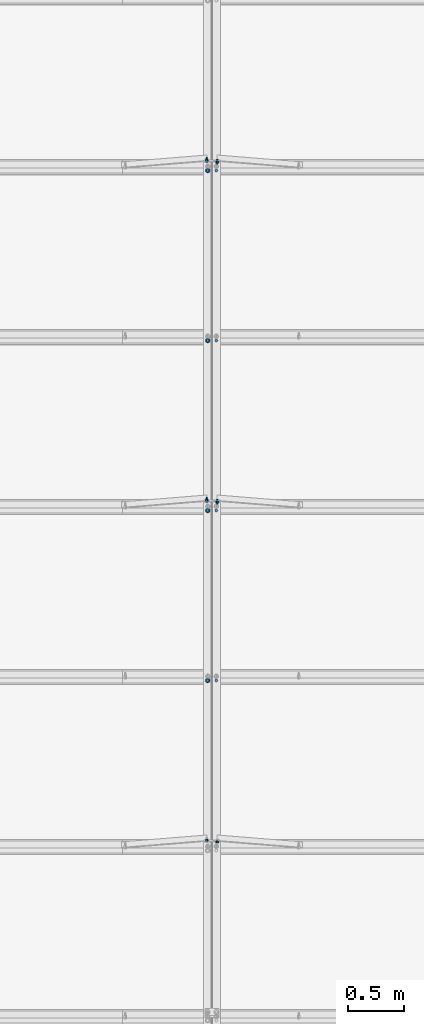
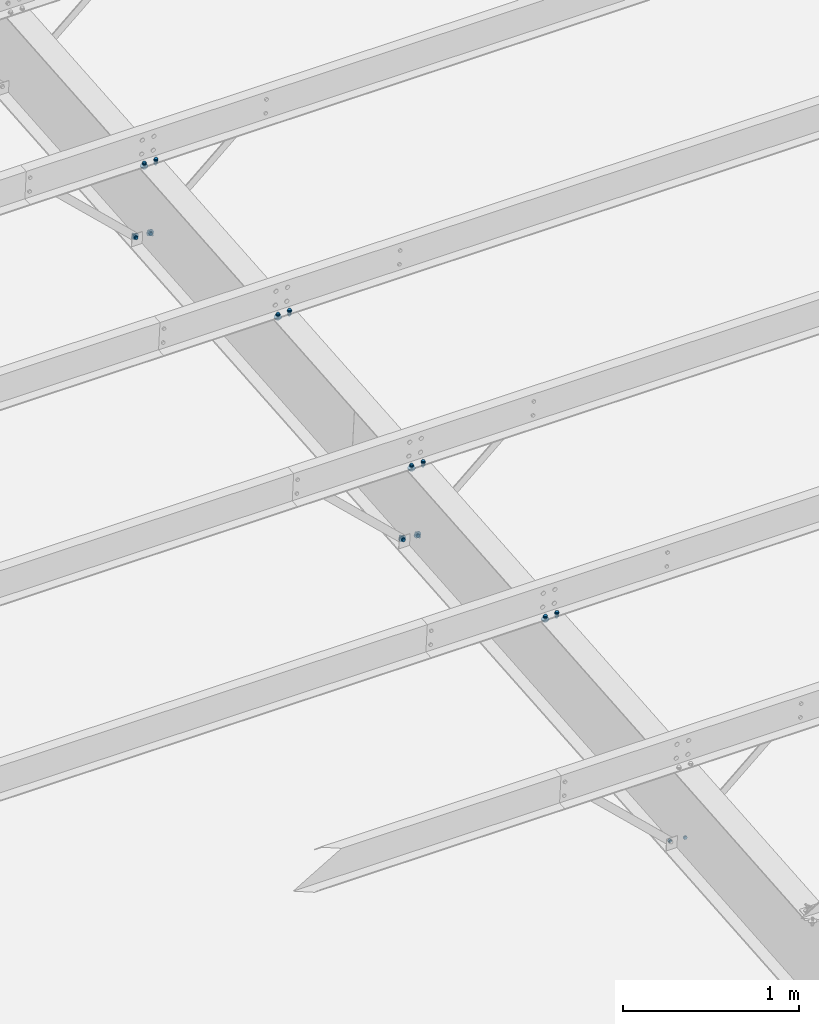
# One storey, part 139 of 185: 18 mechanical fasteners, 9 elements without a shape of their own.
"""IFC2X3 building model written with IfcOpenShell, lengths in millimetres."""

from ifc_helpers import new_model, si_unit, frame, origin_with_axes, origin_2d_with_axis, place, context, subcontext, project, spatial, polyline, circle, outline, extrude, source, transform, mapped, material, type_object, element, aggregate, save


model = new_model("IFC2X3")

# Units and contexts
model_context = context("Model", 3, precision=1e-05, world=origin_with_axes())
body_context = subcontext(model_context, "Body", "Model", "MODEL_VIEW")
ifc_project = project(units=[si_unit("LENGTHUNIT", "METRE", prefix="MILLI"), si_unit("AREAUNIT", "SQUARE_METRE"), si_unit("VOLUMEUNIT", "CUBIC_METRE"), si_unit("MASSUNIT", "GRAM", prefix="KILO"), si_unit("TIMEUNIT", "SECOND"), si_unit("PLANEANGLEUNIT", "RADIAN"), si_unit("SOLIDANGLEUNIT", "STERADIAN"), si_unit("THERMODYNAMICTEMPERATUREUNIT", "DEGREE_CELSIUS"), si_unit("LUMINOUSINTENSITYUNIT", "LUMEN")], contexts=[model_context])

# Site, building, storey
site_placement = place(None, origin_with_axes())
site = spatial("IfcSite", under=ifc_project, at=site_placement, Name="Undefined", CompositionType="ELEMENT")
building_placement = place(site_placement, origin_with_axes())
building = spatial("IfcBuilding", under=site, at=building_placement, Name="Undefined", CompositionType="ELEMENT")
storey_placement = place(building_placement, origin_with_axes())
storey = spatial("IfcBuildingStorey", under=building, at=storey_placement, Name="Undefined", CompositionType="ELEMENT", Elevation=0.0)

# Assembly, mechanical fastener
assembly_1_placement = place(storey_placement, origin_with_axes())
assembly_1 = element("IfcElementAssembly", 1, at=assembly_1_placement, inside=storey, Name="Steel Assembly", AssemblyPlace="NOTDEFINED", PredefinedType="RIGID_FRAME")
ifc_material_1 = material(Name="Undefined")
discrete_accessory_type = type_object("IfcDiscreteAccessoryType", Name="Bolt assembly")
shared_shape_1 = source(origin_with_axes(), body_context, "Body", "SweptSolid", [
    extrude(circle(Radius=7.14374971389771, at=origin_2d_with_axis()), frame((0.0, -1.59000001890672, 0.0), z_axis=(0.0, 1.0, 0.0), x_axis=(1.0, 0.0, 0.0)), (0.0, 0.0, 1.0), 1.7),
    extrude(outline(polyline([(10.9985221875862, 0.0), (5.4992610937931, 9.52499961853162), (-5.4992610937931, 9.52499961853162), (-10.9985221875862, 0.0), (-5.4992610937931, -9.52499961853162), (5.4992610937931, -9.52499961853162), (10.9985221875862, 0.0)])), frame((0.0, -15.0837496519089, 0.0), z_axis=(0.0, 1.0, 0.0), x_axis=(1.0, 0.0, 0.0)), (0.0, 0.0, 1.0), 9.5),
    extrude(circle(Radius=6.34999990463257, at=origin_2d_with_axis()), frame((0.0, -5.5587500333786, 0.0), z_axis=(0.0, 1.0, 0.0), x_axis=(1.0, 0.0, 0.0)), (0.0, 0.0, 1.0), 38.1),
    extrude(circle(Radius=13.4937496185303, at=origin_2d_with_axis()), frame((0.0, -5.5587500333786, 0.0), z_axis=(0.0, 1.0, 0.0), x_axis=(1.0, 0.0, 0.0)), (0.0, 0.0, 1.0), 4.0),
    extrude(circle(Radius=22.2250003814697, at=origin_2d_with_axis()), frame((0.0, 0.0, 0.0), z_axis=(0.0, 1.0, 0.0), x_axis=(1.0, 0.0, 0.0)), (0.0, 0.0, 1.0), 7.9),
    extrude(outline(polyline([(12.8316099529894, 0.0), (6.4158049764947, 11.1125001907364), (-6.4158049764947, 11.1125001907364), (-12.8316099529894, 0.0), (-6.4158049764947, -11.1125001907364), (6.4158049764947, -11.1125001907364), (12.8316099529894, 0.0)])), frame((0.0, 7.93750000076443, 0.0), z_axis=(0.0, 1.0, 0.0), x_axis=(1.0, 0.0, 0.0)), (0.0, 0.0, 1.0), 12.3),
])
mechanical_fastener_1_placement = place(assembly_1_placement, frame((22525.8744956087, 14242.609472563, 6520.52329388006), z_axis=(0.697745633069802, 0.0594892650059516, -0.713871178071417), x_axis=(0.716345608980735, -0.0579446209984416, 0.695335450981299)))
mechanical_fastener_1 = element("IfcMechanicalFastener", 2, at=mechanical_fastener_1_placement, type_object=discrete_accessory_type, material=ifc_material_1, Name="Bolt assembly", NominalDiameter=12.6999998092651, NominalLength=38.0999984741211, context=body_context, shape_type="MappedRepresentation", body=[
    mapped(shared_shape_1, transform((0.0, 0.0, 0.0))),
])
aggregate(assembly_1, [mechanical_fastener_1])

assembly_2_placement = place(storey_placement, origin_with_axes())
assembly_2 = element("IfcElementAssembly", 3, at=assembly_2_placement, inside=storey, Name="Steel Assembly", AssemblyPlace="NOTDEFINED", PredefinedType="RIGID_FRAME")
mechanical_fastener_2_placement = place(assembly_2_placement, frame((22525.8744956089, 11205.1380014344, 6267.40067128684), z_axis=(0.697745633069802, 0.0594892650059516, -0.713871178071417), x_axis=(0.716345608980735, -0.0579446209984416, 0.695335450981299)))
mechanical_fastener_2 = element("IfcMechanicalFastener", 4, at=mechanical_fastener_2_placement, type_object=discrete_accessory_type, material=ifc_material_1, Name="Bolt assembly", NominalDiameter=12.6999998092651, NominalLength=38.0999984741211, context=body_context, shape_type="MappedRepresentation", body=[
    mapped(shared_shape_1, transform((0.0, 0.0, 0.0))),
])
aggregate(assembly_2, [mechanical_fastener_2])

assembly_3_placement = place(storey_placement, origin_with_axes())
assembly_3 = element("IfcElementAssembly", 5, at=assembly_3_placement, inside=storey, Name="Steel Assembly", AssemblyPlace="NOTDEFINED", PredefinedType="RIGID_FRAME")
shared_shape_2 = source(origin_with_axes(), body_context, "Body", "SweptSolid", [
    extrude(circle(Radius=7.14374971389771, at=origin_2d_with_axis()), frame((0.0, 0.0, 0.0), z_axis=(0.0, 1.0, 0.0), x_axis=(1.0, 0.0, 0.0)), (0.0, 0.0, 1.0), 1.7),
    extrude(outline(polyline([(10.9985221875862, 0.0), (5.4992610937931, 9.52499961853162), (-5.4992610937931, 9.52499961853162), (-10.9985221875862, 0.0), (-5.4992610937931, -9.52499961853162), (5.4992610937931, -9.52499961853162), (10.9985221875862, 0.0)])), frame((0.0, -13.4937496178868, 0.0), z_axis=(0.0, 1.0, 0.0), x_axis=(1.0, 0.0, 0.0)), (0.0, 0.0, 1.0), 9.5),
    extrude(circle(Radius=6.34999990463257, at=origin_2d_with_axis()), frame((0.0, -3.96874999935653, 0.0), z_axis=(0.0, 1.0, 0.0), x_axis=(1.0, 0.0, 0.0)), (0.0, 0.0, 1.0), 38.1),
    extrude(circle(Radius=13.4937496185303, at=origin_2d_with_axis()), frame((0.0, -3.96874999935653, 0.0), z_axis=(0.0, 1.0, 0.0), x_axis=(1.0, 0.0, 0.0)), (0.0, 0.0, 1.0), 4.0),
    extrude(circle(Radius=22.2250003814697, at=origin_2d_with_axis()), frame((0.0, 1.5900000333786, 0.0), z_axis=(0.0, 1.0, 0.0), x_axis=(1.0, 0.0, 0.0)), (0.0, 0.0, 1.0), 7.9),
    extrude(outline(polyline([(12.8316099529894, 0.0), (6.4158049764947, 11.1125001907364), (-6.4158049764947, 11.1125001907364), (-12.8316099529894, 0.0), (-6.4158049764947, -11.1125001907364), (6.4158049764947, -11.1125001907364), (12.8316099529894, 0.0)])), frame((0.0, 9.5275000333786, 0.0), z_axis=(0.0, 1.0, 0.0), x_axis=(1.0, 0.0, 0.0)), (0.0, 0.0, 1.0), 12.3),
])
mechanical_fastener_3_placement = place(assembly_3_placement, frame((22432.1255043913, 14242.609472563, 6520.52329388), z_axis=(-0.697745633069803, 0.0594892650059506, -0.713871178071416), x_axis=(-0.716345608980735, -0.0579446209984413, 0.6953354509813)))
mechanical_fastener_3 = element("IfcMechanicalFastener", 6, at=mechanical_fastener_3_placement, type_object=discrete_accessory_type, material=ifc_material_1, Name="Bolt assembly", NominalDiameter=12.6999998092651, NominalLength=38.0999984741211, context=body_context, shape_type="MappedRepresentation", body=[
    mapped(shared_shape_2, transform((0.0, 0.0, 0.0))),
])
aggregate(assembly_3, [mechanical_fastener_3])

assembly_4_placement = place(storey_placement, origin_with_axes())
assembly_4 = element("IfcElementAssembly", 7, at=assembly_4_placement, inside=storey, Name="Steel Assembly", AssemblyPlace="NOTDEFINED", PredefinedType="RIGID_FRAME")
mechanical_fastener_4_placement = place(assembly_4_placement, frame((22432.1255043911, 11205.1380014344, 6267.40067128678), z_axis=(-0.697745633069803, 0.0594892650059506, -0.713871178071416), x_axis=(-0.716345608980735, -0.0579446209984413, 0.6953354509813)))
mechanical_fastener_4 = element("IfcMechanicalFastener", 8, at=mechanical_fastener_4_placement, type_object=discrete_accessory_type, material=ifc_material_1, Name="Bolt assembly", NominalDiameter=12.6999998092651, NominalLength=38.0999984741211, context=body_context, shape_type="MappedRepresentation", body=[
    mapped(shared_shape_2, transform((0.0, 0.0, 0.0))),
])
aggregate(assembly_4, [mechanical_fastener_4])

# Assembly, mechanical fasteners
assembly_5_placement = place(storey_placement, origin_with_axes())
assembly_5 = element("IfcElementAssembly", 9, at=assembly_5_placement, inside=storey, Name="Steel Assembly", AssemblyPlace="NOTDEFINED", PredefinedType="RIGID_FRAME")
ifc_material_2 = material(Name="7990")
shared_shape_3 = source(origin_with_axes(), body_context, "Body", "SweptSolid", [
    extrude(circle(Radius=7.14374971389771, at=origin_2d_with_axis()), frame((0.0, -3.41600000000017, 0.0), z_axis=(0.0, 1.0, 0.0), x_axis=(1.0, 0.0, 0.0)), (0.0, 0.0, 1.0), 3.5),
    extrude(circle(Radius=11.4299998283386, at=origin_2d_with_axis()), frame((0.0, 0.0, 0.0), z_axis=(0.0, 1.0, 0.0), x_axis=(1.0, 0.0, 0.0)), (0.0, 0.0, 1.0), 4.2),
    extrude(outline(polyline([(12.171698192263, 0.0), (6.08584909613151, 10.5409998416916), (-6.08584909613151, 10.5409998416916), (-12.171698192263, 0.0), (-6.08584909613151, -10.5409998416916), (6.08584909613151, -10.5409998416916), (12.171698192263, 0.0)])), frame((0.0, 4.1909999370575, 0.0), z_axis=(0.0, 1.0, 0.0), x_axis=(1.0, 0.0, 0.0)), (0.0, 0.0, 1.0), 8.4),
])
mechanical_fastener_5_placement = place(assembly_5_placement, frame((22432.84185, 14242.6674171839, 6519.82795842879), z_axis=(0.921635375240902, 0.0322263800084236, -0.386716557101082), x_axis=(-0.388056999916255, 0.0765376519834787, -0.9184518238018)))
mechanical_fastener_5 = element("IfcMechanicalFastener", 10, at=mechanical_fastener_5_placement, type_object=discrete_accessory_type, material=ifc_material_2, Name="Bolt assembly", NominalDiameter=12.6999998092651, NominalLength=38.0999984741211, context=body_context, shape_type="MappedRepresentation", body=[
    mapped(shared_shape_3, transform((0.0, 0.0, 0.0))),
])
mechanical_fastener_6_placement = place(assembly_5_placement, frame((22432.84185, 11205.1959460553, 6266.70533583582), z_axis=(0.921635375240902, 0.0322263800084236, -0.386716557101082), x_axis=(-0.388056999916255, 0.0765376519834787, -0.9184518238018)))
mechanical_fastener_6 = element("IfcMechanicalFastener", 11, at=mechanical_fastener_6_placement, type_object=discrete_accessory_type, material=ifc_material_2, Name="Bolt assembly", NominalDiameter=12.6999998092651, NominalLength=38.0999984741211, context=body_context, shape_type="MappedRepresentation", body=[
    mapped(shared_shape_3, transform((0.0, 0.0, 0.0))),
])
mechanical_fastener_7_placement = place(assembly_5_placement, frame((22432.84185, 8167.72447492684, 6013.58271324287), z_axis=(0.921635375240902, 0.0322263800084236, -0.386716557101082), x_axis=(-0.388056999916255, 0.0765376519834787, -0.9184518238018)))
mechanical_fastener_7 = element("IfcMechanicalFastener", 12, at=mechanical_fastener_7_placement, type_object=discrete_accessory_type, material=ifc_material_2, Name="Bolt assembly", NominalDiameter=12.6999998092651, NominalLength=38.0999984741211, context=body_context, shape_type="MappedRepresentation", body=[
    mapped(shared_shape_3, transform((0.0, 0.0, 0.0))),
])
shared_shape_4 = source(origin_with_axes(), body_context, "Body", "SweptSolid", [
    extrude(circle(Radius=7.14374971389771, at=origin_2d_with_axis()), frame((0.0, 0.0, 0.0), z_axis=(0.0, 1.0, 0.0), x_axis=(1.0, 0.0, 0.0)), (0.0, 0.0, 1.0), 3.5),
    extrude(circle(Radius=11.4299998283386, at=origin_2d_with_axis()), frame((0.0, 3.41600000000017, 0.0), z_axis=(0.0, 1.0, 0.0), x_axis=(1.0, 0.0, 0.0)), (0.0, 0.0, 1.0), 4.2),
    extrude(outline(polyline([(12.171698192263, 0.0), (6.08584909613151, 10.5409998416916), (-6.08584909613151, 10.5409998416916), (-12.171698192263, 0.0), (-6.08584909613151, -10.5409998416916), (6.08584909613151, -10.5409998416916), (12.171698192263, 0.0)])), frame((0.0, 7.60699993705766, 0.0), z_axis=(0.0, 1.0, 0.0), x_axis=(1.0, 0.0, 0.0)), (0.0, 0.0, 1.0), 8.4),
])
mechanical_fastener_8_placement = place(assembly_5_placement, frame((22525.15815, 14242.6674171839, 6519.82795842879), z_axis=(-0.921635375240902, 0.0322263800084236, -0.386716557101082), x_axis=(0.388056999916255, 0.0765376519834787, -0.9184518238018)))
mechanical_fastener_8 = element("IfcMechanicalFastener", 13, at=mechanical_fastener_8_placement, type_object=discrete_accessory_type, material=ifc_material_2, Name="Bolt assembly", NominalDiameter=12.6999998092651, NominalLength=38.0999984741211, context=body_context, shape_type="MappedRepresentation", body=[
    mapped(shared_shape_4, transform((0.0, 0.0, 0.0))),
])
mechanical_fastener_9_placement = place(assembly_5_placement, frame((22525.15815, 11205.1959460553, 6266.70533583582), z_axis=(-0.921635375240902, 0.0322263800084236, -0.386716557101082), x_axis=(0.388056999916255, 0.0765376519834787, -0.9184518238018)))
mechanical_fastener_9 = element("IfcMechanicalFastener", 14, at=mechanical_fastener_9_placement, type_object=discrete_accessory_type, material=ifc_material_2, Name="Bolt assembly", NominalDiameter=12.6999998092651, NominalLength=38.0999984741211, context=body_context, shape_type="MappedRepresentation", body=[
    mapped(shared_shape_4, transform((0.0, 0.0, 0.0))),
])
mechanical_fastener_10_placement = place(assembly_5_placement, frame((22525.15815, 8167.72447492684, 6013.58271324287), z_axis=(-0.921635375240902, 0.0322263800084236, -0.386716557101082), x_axis=(0.388056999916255, 0.0765376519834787, -0.9184518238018)))
mechanical_fastener_10 = element("IfcMechanicalFastener", 15, at=mechanical_fastener_10_placement, type_object=discrete_accessory_type, material=ifc_material_2, Name="Bolt assembly", NominalDiameter=12.6999998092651, NominalLength=38.0999984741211, context=body_context, shape_type="MappedRepresentation", body=[
    mapped(shared_shape_4, transform((0.0, 0.0, 0.0))),
])
aggregate(assembly_5, [mechanical_fastener_8, mechanical_fastener_5, mechanical_fastener_9, mechanical_fastener_6, mechanical_fastener_10, mechanical_fastener_7])

# Assembly, mechanical fastener
assembly_6_placement = place(storey_placement, origin_with_axes())
assembly_6 = element("IfcElementAssembly", 16, at=assembly_6_placement, inside=storey, Name="Steel Assembly", AssemblyPlace="NOTDEFINED", PredefinedType="RIGID_FRAME")
shared_shape_5 = source(origin_with_axes(), body_context, "Body", "SweptSolid", [
    extrude(circle(Radius=7.14374971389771, at=origin_2d_with_axis()), frame((0.0, -0.0238014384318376, 0.0), z_axis=(0.0, 1.0, 0.0), x_axis=(1.0, 0.0, 0.0)), (0.0, 0.0, 1.0), 8.0),
    extrude(circle(Radius=7.14374971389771, at=origin_2d_with_axis()), frame((0.0, -3.08000006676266, 0.0), z_axis=(0.0, 1.0, 0.0), x_axis=(1.0, 0.0, 0.0)), (0.0, 0.0, 1.0), 3.2),
    extrude(circle(Radius=7.14374971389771, at=origin_2d_with_axis()), frame((0.0, -3.08000006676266, 0.0), z_axis=(0.0, 1.0, 0.0), x_axis=(1.0, 0.0, 0.0)), (0.0, 0.0, 1.0), 3.2),
    extrude(outline(polyline([(10.9985221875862, 0.0), (5.4992610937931, 9.52499961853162), (-5.4992610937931, 9.52499961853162), (-10.9985221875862, 0.0), (-5.4992610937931, -9.52499961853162), (5.4992610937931, -9.52499961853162), (10.9985221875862, 0.0)])), frame((0.0, -16.6737496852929, 0.0), z_axis=(0.0, 1.0, 0.0), x_axis=(1.0, 0.0, 0.0)), (0.0, 0.0, 1.0), 9.5),
    extrude(circle(Radius=6.34999990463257, at=origin_2d_with_axis()), frame((0.0, -7.14875006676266, 0.0), z_axis=(0.0, 1.0, 0.0), x_axis=(1.0, 0.0, 0.0)), (0.0, 0.0, 1.0), 38.1),
    extrude(circle(Radius=13.4937496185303, at=origin_2d_with_axis()), frame((0.0, -7.14875006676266, 0.0), z_axis=(0.0, 1.0, 0.0), x_axis=(1.0, 0.0, 0.0)), (0.0, 0.0, 1.0), 4.0),
    extrude(circle(Radius=22.2250003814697, at=origin_2d_with_axis()), frame((0.0, 7.95019856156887, 0.0), z_axis=(0.0, 1.0, 0.0), x_axis=(1.0, 0.0, 0.0)), (0.0, 0.0, 1.0), 7.9),
    extrude(outline(polyline([(12.8316099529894, 0.0), (6.4158049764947, 11.1125001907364), (-6.4158049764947, 11.1125001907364), (-12.8316099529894, 0.0), (-6.4158049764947, -11.1125001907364), (6.4158049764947, -11.1125001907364), (12.8316099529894, 0.0)])), frame((0.0, 15.8876985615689, 0.0), z_axis=(0.0, 1.0, 0.0), x_axis=(1.0, 0.0, 0.0)), (0.0, 0.0, 1.0), 12.3),
])
mechanical_fastener_11_placement = place(assembly_6_placement, frame((22440.9, 9602.21678319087, 6692.28039869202), z_axis=(1.0, 0.0, 0.0), x_axis=(0.0, -0.996545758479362, -0.0830454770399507)))
mechanical_fastener_11 = element("IfcMechanicalFastener", 17, at=mechanical_fastener_11_placement, type_object=discrete_accessory_type, material=ifc_material_1, Name="Bolt assembly", NominalDiameter=12.6999998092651, NominalLength=38.0999984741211, context=body_context, shape_type="MappedRepresentation", body=[
    mapped(shared_shape_5, transform((0.0, 0.0, 0.0))),
])

assembly_7_placement = place(storey_placement, origin_with_axes())
assembly_7 = element("IfcElementAssembly", 18, at=assembly_7_placement, inside=storey, Name="Steel Assembly", AssemblyPlace="NOTDEFINED", PredefinedType="RIGID_FRAME")
mechanical_fastener_12_placement = place(assembly_7_placement, frame((22440.9, 11120.9525187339, 6818.84171024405), z_axis=(1.0, 0.0, 0.0), x_axis=(0.0, -0.996545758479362, -0.0830454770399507)))
mechanical_fastener_12 = element("IfcMechanicalFastener", 19, at=mechanical_fastener_12_placement, type_object=discrete_accessory_type, material=ifc_material_1, Name="Bolt assembly", NominalDiameter=12.6999998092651, NominalLength=38.0999984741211, context=body_context, shape_type="MappedRepresentation", body=[
    mapped(shared_shape_5, transform((0.0, 0.0, 0.0))),
])

assembly_8_placement = place(storey_placement, origin_with_axes())
assembly_8 = element("IfcElementAssembly", 20, at=assembly_8_placement, inside=storey, Name="Steel Assembly", AssemblyPlace="NOTDEFINED", PredefinedType="RIGID_FRAME")
mechanical_fastener_13_placement = place(assembly_8_placement, frame((22440.9, 12639.6882542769, 6945.40302179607), z_axis=(1.0, 0.0, 0.0), x_axis=(0.0, -0.996545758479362, -0.0830454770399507)))
mechanical_fastener_13 = element("IfcMechanicalFastener", 21, at=mechanical_fastener_13_placement, type_object=discrete_accessory_type, material=ifc_material_1, Name="Bolt assembly", NominalDiameter=12.6999998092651, NominalLength=38.0999984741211, context=body_context, shape_type="MappedRepresentation", body=[
    mapped(shared_shape_5, transform((0.0, 0.0, 0.0))),
])

assembly_9_placement = place(storey_placement, origin_with_axes())
assembly_9 = element("IfcElementAssembly", 22, at=assembly_9_placement, inside=storey, Name="Steel Assembly", AssemblyPlace="NOTDEFINED", PredefinedType="RIGID_FRAME")
mechanical_fastener_14_placement = place(assembly_9_placement, frame((22440.9, 14158.4239898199, 7071.96433334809), z_axis=(1.0, 0.0, 0.0), x_axis=(0.0, -0.996545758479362, -0.0830454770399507)))
mechanical_fastener_14 = element("IfcMechanicalFastener", 23, at=mechanical_fastener_14_placement, type_object=discrete_accessory_type, material=ifc_material_1, Name="Bolt assembly", NominalDiameter=12.6999998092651, NominalLength=38.0999984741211, context=body_context, shape_type="MappedRepresentation", body=[
    mapped(shared_shape_5, transform((0.0, 0.0, 0.0))),
])

# Mechanical fastener
shared_shape_6 = source(origin_with_axes(), body_context, "Body", "SweptSolid", [
    extrude(circle(Radius=7.14374971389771, at=origin_2d_with_axis()), frame((0.0, -0.0238014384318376, 0.0), z_axis=(0.0, 1.0, 0.0), x_axis=(1.0, 0.0, 0.0)), (0.0, 0.0, 1.0), 8.0),
    extrude(circle(Radius=7.14374971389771, at=origin_2d_with_axis()), frame((0.0, -3.08000006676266, 0.0), z_axis=(0.0, 1.0, 0.0), x_axis=(1.0, 0.0, 0.0)), (0.0, 0.0, 1.0), 3.2),
    extrude(circle(Radius=7.14374971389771, at=origin_2d_with_axis()), frame((0.0, -3.08000006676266, 0.0), z_axis=(0.0, 1.0, 0.0), x_axis=(1.0, 0.0, 0.0)), (0.0, 0.0, 1.0), 3.2),
    extrude(outline(polyline([(10.9985221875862, 0.0), (5.4992610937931, 9.52499961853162), (-5.4992610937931, 9.52499961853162), (-10.9985221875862, 0.0), (-5.4992610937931, -9.52499961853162), (5.4992610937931, -9.52499961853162), (10.9985221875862, 0.0)])), frame((0.0, -16.6737496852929, 0.0), z_axis=(0.0, 1.0, 0.0), x_axis=(1.0, 0.0, 0.0)), (0.0, 0.0, 1.0), 9.5),
    extrude(circle(Radius=6.34999990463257, at=origin_2d_with_axis()), frame((0.0, -7.14875006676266, 0.0), z_axis=(0.0, 1.0, 0.0), x_axis=(1.0, 0.0, 0.0)), (0.0, 0.0, 1.0), 38.1),
    extrude(circle(Radius=13.4937496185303, at=origin_2d_with_axis()), frame((0.0, -7.14875006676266, 0.0), z_axis=(0.0, 1.0, 0.0), x_axis=(1.0, 0.0, 0.0)), (0.0, 0.0, 1.0), 4.0),
    extrude(outline(polyline([(12.8316099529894, 0.0), (6.4158049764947, 11.1125001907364), (-6.4158049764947, 11.1125001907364), (-12.8316099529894, 0.0), (-6.4158049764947, -11.1125001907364), (6.4158049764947, -11.1125001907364), (12.8316099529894, 0.0)])), frame((0.0, 7.95019856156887, 0.0), z_axis=(0.0, 1.0, 0.0), x_axis=(1.0, 0.0, 0.0)), (0.0, 0.0, 1.0), 12.3),
])
mechanical_fastener_15_placement = place(assembly_6_placement, frame((22517.1, 9602.21678319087, 6692.28039869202), z_axis=(1.0, 0.0, 0.0), x_axis=(0.0, -0.996545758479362, -0.0830454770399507)))
mechanical_fastener_15 = element("IfcMechanicalFastener", 24, at=mechanical_fastener_15_placement, type_object=discrete_accessory_type, material=ifc_material_1, Name="Bolt assembly", NominalDiameter=12.6999998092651, NominalLength=38.0999984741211, context=body_context, shape_type="MappedRepresentation", body=[
    mapped(shared_shape_6, transform((0.0, 0.0, 0.0))),
])

aggregate(assembly_6, [mechanical_fastener_11, mechanical_fastener_15])

mechanical_fastener_16_placement = place(assembly_7_placement, frame((22517.1, 11120.9525187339, 6818.84171024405), z_axis=(1.0, 0.0, 0.0), x_axis=(0.0, -0.996545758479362, -0.0830454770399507)))
mechanical_fastener_16 = element("IfcMechanicalFastener", 25, at=mechanical_fastener_16_placement, type_object=discrete_accessory_type, material=ifc_material_1, Name="Bolt assembly", NominalDiameter=12.6999998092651, NominalLength=38.0999984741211, context=body_context, shape_type="MappedRepresentation", body=[
    mapped(shared_shape_6, transform((0.0, 0.0, 0.0))),
])

aggregate(assembly_7, [mechanical_fastener_12, mechanical_fastener_16])

mechanical_fastener_17_placement = place(assembly_8_placement, frame((22517.1, 12639.6882542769, 6945.40302179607), z_axis=(1.0, 0.0, 0.0), x_axis=(0.0, -0.996545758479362, -0.0830454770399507)))
mechanical_fastener_17 = element("IfcMechanicalFastener", 26, at=mechanical_fastener_17_placement, type_object=discrete_accessory_type, material=ifc_material_1, Name="Bolt assembly", NominalDiameter=12.6999998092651, NominalLength=38.0999984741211, context=body_context, shape_type="MappedRepresentation", body=[
    mapped(shared_shape_6, transform((0.0, 0.0, 0.0))),
])

aggregate(assembly_8, [mechanical_fastener_13, mechanical_fastener_17])

mechanical_fastener_18_placement = place(assembly_9_placement, frame((22517.1, 14158.4239898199, 7071.96433334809), z_axis=(1.0, 0.0, 0.0), x_axis=(0.0, -0.996545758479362, -0.0830454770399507)))
mechanical_fastener_18 = element("IfcMechanicalFastener", 27, at=mechanical_fastener_18_placement, type_object=discrete_accessory_type, material=ifc_material_1, Name="Bolt assembly", NominalDiameter=12.6999998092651, NominalLength=38.0999984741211, context=body_context, shape_type="MappedRepresentation", body=[
    mapped(shared_shape_6, transform((0.0, 0.0, 0.0))),
])

aggregate(assembly_9, [mechanical_fastener_14, mechanical_fastener_18])

save(model, "model.ifc")
